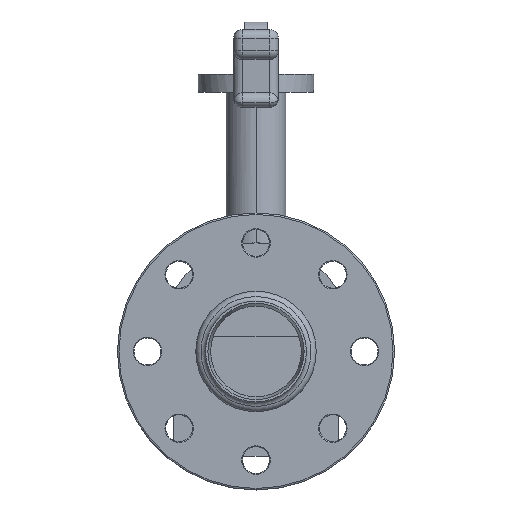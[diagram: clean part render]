
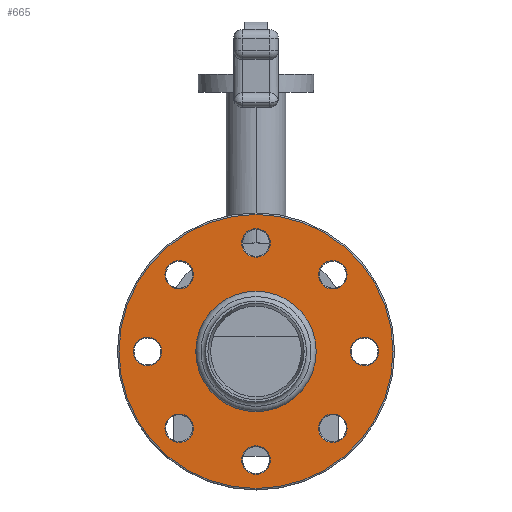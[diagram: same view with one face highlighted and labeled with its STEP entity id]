
A CAD part, front view. The second image highlights one B-rep face of the part: STEP entity #665.
In plain terms, the highlighted planar face has unit normal (0, -1, 0).
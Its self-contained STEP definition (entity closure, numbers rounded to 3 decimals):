
#372=FACE_BOUND('',#1045,.T.);
#373=FACE_BOUND('',#1046,.T.);
#374=FACE_BOUND('',#1047,.T.);
#375=FACE_BOUND('',#1048,.T.);
#376=FACE_BOUND('',#1049,.T.);
#377=FACE_BOUND('',#1050,.T.);
#378=FACE_BOUND('',#1051,.T.);
#379=FACE_BOUND('',#1052,.T.);
#380=FACE_BOUND('',#1053,.T.);
#381=FACE_BOUND('',#1054,.T.);
#665=ADVANCED_FACE('',(#372,#373,#374,#375,#376,#377,#378,#379,#380,#381),
#748,.T.);
#748=PLANE('',#2874);
#1045=EDGE_LOOP('',(#1799));
#1046=EDGE_LOOP('',(#1800));
#1047=EDGE_LOOP('',(#1801));
#1048=EDGE_LOOP('',(#1802));
#1049=EDGE_LOOP('',(#1803));
#1050=EDGE_LOOP('',(#1804));
#1051=EDGE_LOOP('',(#1805));
#1052=EDGE_LOOP('',(#1806));
#1053=EDGE_LOOP('',(#1807));
#1054=EDGE_LOOP('',(#1808));
#1799=ORIENTED_EDGE('',*,*,#2362,.T.);
#1800=ORIENTED_EDGE('',*,*,#2363,.T.);
#1801=ORIENTED_EDGE('',*,*,#2364,.T.);
#1802=ORIENTED_EDGE('',*,*,#2365,.T.);
#1803=ORIENTED_EDGE('',*,*,#2366,.T.);
#1804=ORIENTED_EDGE('',*,*,#2367,.T.);
#1805=ORIENTED_EDGE('',*,*,#2368,.T.);
#1806=ORIENTED_EDGE('',*,*,#2369,.T.);
#1807=ORIENTED_EDGE('',*,*,#2370,.T.);
#1808=ORIENTED_EDGE('',*,*,#2361,.F.);
#2076=VERTEX_POINT('',#4380);
#2077=VERTEX_POINT('',#4383);
#2078=VERTEX_POINT('',#4385);
#2079=VERTEX_POINT('',#4387);
#2080=VERTEX_POINT('',#4389);
#2081=VERTEX_POINT('',#4391);
#2082=VERTEX_POINT('',#4393);
#2083=VERTEX_POINT('',#4395);
#2084=VERTEX_POINT('',#4397);
#2085=VERTEX_POINT('',#4399);
#2361=EDGE_CURVE('',#2076,#2076,#2540,.T.);
#2362=EDGE_CURVE('',#2077,#2077,#2541,.T.);
#2363=EDGE_CURVE('',#2078,#2078,#2542,.T.);
#2364=EDGE_CURVE('',#2079,#2079,#2543,.T.);
#2365=EDGE_CURVE('',#2080,#2080,#2544,.T.);
#2366=EDGE_CURVE('',#2081,#2081,#2545,.T.);
#2367=EDGE_CURVE('',#2082,#2082,#2546,.T.);
#2368=EDGE_CURVE('',#2083,#2083,#2547,.T.);
#2369=EDGE_CURVE('',#2084,#2084,#2548,.T.);
#2370=EDGE_CURVE('',#2085,#2085,#2549,.T.);
#2540=CIRCLE('',#2863,31.75);
#2541=CIRCLE('',#2865,9.5);
#2542=CIRCLE('',#2866,9.5);
#2543=CIRCLE('',#2867,9.5);
#2544=CIRCLE('',#2868,9.5);
#2545=CIRCLE('',#2869,9.5);
#2546=CIRCLE('',#2870,9.5);
#2547=CIRCLE('',#2871,9.5);
#2548=CIRCLE('',#2872,9.5);
#2549=CIRCLE('',#2873,91.5);
#2863=AXIS2_PLACEMENT_3D('',#4379,#3594,#3595);
#2865=AXIS2_PLACEMENT_3D('',#4382,#3598,#3599);
#2866=AXIS2_PLACEMENT_3D('',#4384,#3600,#3601);
#2867=AXIS2_PLACEMENT_3D('',#4386,#3602,#3603);
#2868=AXIS2_PLACEMENT_3D('',#4388,#3604,#3605);
#2869=AXIS2_PLACEMENT_3D('',#4390,#3606,#3607);
#2870=AXIS2_PLACEMENT_3D('',#4392,#3608,#3609);
#2871=AXIS2_PLACEMENT_3D('',#4394,#3610,#3611);
#2872=AXIS2_PLACEMENT_3D('',#4396,#3612,#3613);
#2873=AXIS2_PLACEMENT_3D('',#4398,#3614,#3615);
#2874=AXIS2_PLACEMENT_3D('',#4400,#3616,#3617);
#3594=DIRECTION('',(0.,-1.,0.));
#3595=DIRECTION('',(0.,0.,-1.));
#3598=DIRECTION('',(0.,1.,0.));
#3599=DIRECTION('',(0.,0.,-1.));
#3600=DIRECTION('',(0.,1.,0.));
#3601=DIRECTION('',(0.,0.,-1.));
#3602=DIRECTION('',(0.,1.,0.));
#3603=DIRECTION('',(0.,0.,-1.));
#3604=DIRECTION('',(0.,1.,0.));
#3605=DIRECTION('',(0.,0.,-1.));
#3606=DIRECTION('',(0.,1.,0.));
#3607=DIRECTION('',(0.,0.,-1.));
#3608=DIRECTION('',(0.,1.,0.));
#3609=DIRECTION('',(0.,0.,-1.));
#3610=DIRECTION('',(0.,1.,0.));
#3611=DIRECTION('',(0.,0.,-1.));
#3612=DIRECTION('',(0.,1.,0.));
#3613=DIRECTION('',(0.,0.,-1.));
#3614=DIRECTION('',(0.,-1.,0.));
#3615=DIRECTION('',(0.,0.,-1.));
#3616=DIRECTION('',(0.,-1.,0.));
#3617=DIRECTION('',(0.,0.,-1.));
#4379=CARTESIAN_POINT('',(0.,-141.228,-10.));
#4380=CARTESIAN_POINT('',(0.,-141.228,-41.75));
#4382=CARTESIAN_POINT('',(72.5,-141.228,-10.));
#4383=CARTESIAN_POINT('',(72.5,-141.228,-19.5));
#4384=CARTESIAN_POINT('',(51.265,-141.228,41.265));
#4385=CARTESIAN_POINT('',(51.265,-141.228,31.765));
#4386=CARTESIAN_POINT('',(0.,-141.228,62.5));
#4387=CARTESIAN_POINT('',(0.,-141.228,53.));
#4388=CARTESIAN_POINT('',(-51.265,-141.228,41.265));
#4389=CARTESIAN_POINT('',(-51.265,-141.228,31.765));
#4390=CARTESIAN_POINT('',(51.265,-141.228,-61.265));
#4391=CARTESIAN_POINT('',(51.265,-141.228,-70.765));
#4392=CARTESIAN_POINT('',(0.,-141.228,-82.5));
#4393=CARTESIAN_POINT('',(0.,-141.228,-92.));
#4394=CARTESIAN_POINT('',(-51.265,-141.228,-61.265));
#4395=CARTESIAN_POINT('',(-51.265,-141.228,-70.765));
#4396=CARTESIAN_POINT('',(-72.5,-141.228,-10.));
#4397=CARTESIAN_POINT('',(-72.5,-141.228,-19.5));
#4398=CARTESIAN_POINT('',(0.,-141.228,-10.));
#4399=CARTESIAN_POINT('',(0.,-141.228,-101.5));
#4400=CARTESIAN_POINT('',(31.75,-141.228,-10.));
